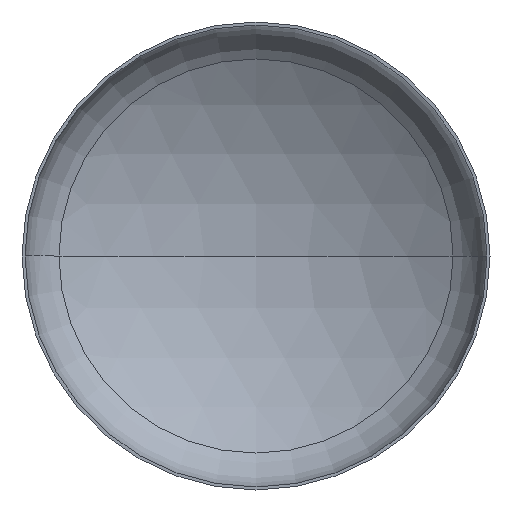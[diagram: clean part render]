
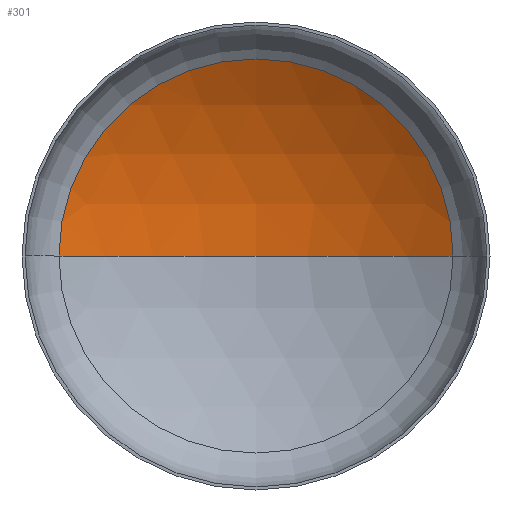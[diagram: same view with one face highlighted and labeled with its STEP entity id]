
A CAD part, front view. The second image highlights one B-rep face of the part: STEP entity #301.
In plain terms, the highlighted spherical face has radius 1360 mm.
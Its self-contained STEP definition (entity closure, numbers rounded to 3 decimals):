
#3 = CARTESIAN_POINT ( 'NONE',  ( 0., -895.286, 0. ) ) ;
#11 = AXIS2_PLACEMENT_3D ( 'NONE', #71, #385, #390 ) ;
#28 = AXIS2_PLACEMENT_3D ( 'NONE', #3, #364, #407 ) ;
#32 = AXIS2_PLACEMENT_3D ( 'NONE', #169, #174, #239 ) ;
#34 = AXIS2_PLACEMENT_3D ( 'NONE', #197, #187, #181 ) ;
#51 = VERTEX_POINT ( 'NONE', #230 ) ;
#67 = CIRCLE ( 'NONE', #32, 1360. ) ;
#71 = CARTESIAN_POINT ( 'NONE',  ( 0., -895.286, 0. ) ) ;
#81 = EDGE_CURVE ( 'NONE', #178, #173, #172, .T. ) ;
#83 = EDGE_CURVE ( 'NONE', #51, #178, #67, .T. ) ;
#84 = EDGE_CURVE ( 'NONE', #51, #173, #376, .T. ) ;
#168 = ORIENTED_EDGE ( 'NONE', *, *, #83, .T. ) ;
#169 = CARTESIAN_POINT ( 'NONE',  ( 0., -895.286, 0. ) ) ;
#171 = ORIENTED_EDGE ( 'NONE', *, *, #81, .T. ) ;
#172 = CIRCLE ( 'NONE', #34, 715.855 ) ;
#173 = VERTEX_POINT ( 'NONE', #236 ) ;
#174 = DIRECTION ( 'NONE',  ( 0., 0., -1. ) ) ;
#178 = VERTEX_POINT ( 'NONE', #179 ) ;
#179 = CARTESIAN_POINT ( 'NONE',  ( 715.855, 261.067, 0. ) ) ;
#181 = DIRECTION ( 'NONE',  ( 1., 0., 0. ) ) ;
#187 = DIRECTION ( 'NONE',  ( 0., -1., 0. ) ) ;
#197 = CARTESIAN_POINT ( 'NONE',  ( 0., 261.067, 0. ) ) ;
#217 = SPHERICAL_SURFACE ( 'NONE', #11, 1360. ) ;
#227 = FACE_OUTER_BOUND ( 'NONE', #284, .T. ) ;
#230 = CARTESIAN_POINT ( 'NONE',  ( 0., 464.714, 0. ) ) ;
#236 = CARTESIAN_POINT ( 'NONE',  ( -715.855, 261.067, 0. ) ) ;
#239 = DIRECTION ( 'NONE',  ( -1., 0., 0. ) ) ;
#284 = EDGE_LOOP ( 'NONE', ( #405, #168, #171 ) ) ;
#301 = ADVANCED_FACE ( 'NONE', ( #227 ), #217, .F. ) ;
#364 = DIRECTION ( 'NONE',  ( 0., 0., 1. ) ) ;
#376 = CIRCLE ( 'NONE', #28, 1360. ) ;
#385 = DIRECTION ( 'NONE',  ( 0., 0., -1. ) ) ;
#390 = DIRECTION ( 'NONE',  ( -1., 0., 0. ) ) ;
#405 = ORIENTED_EDGE ( 'NONE', *, *, #84, .F. ) ;
#407 = DIRECTION ( 'NONE',  ( 1., 0., 0. ) ) ;
